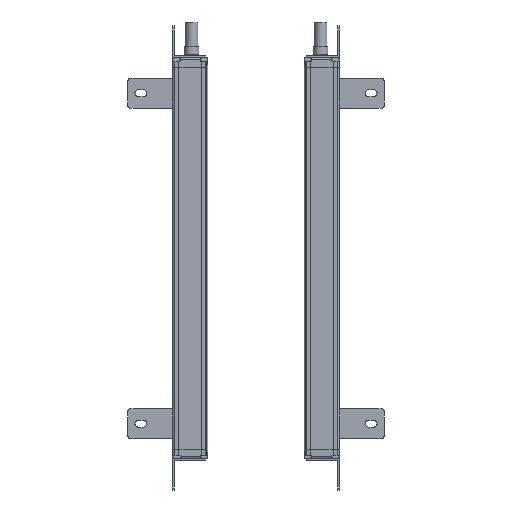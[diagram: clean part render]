
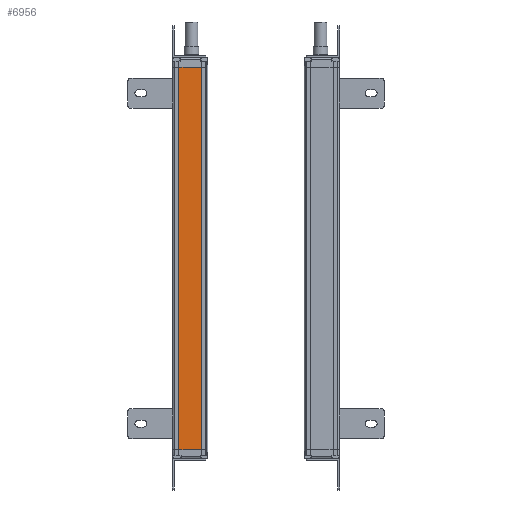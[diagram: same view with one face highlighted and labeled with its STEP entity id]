
A CAD part, left-side view. The second image highlights one B-rep face of the part: STEP entity #6956.
In plain terms, the highlighted planar face has unit normal (-1, 0, 0).
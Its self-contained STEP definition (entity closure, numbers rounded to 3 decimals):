
#953=FACE_OUTER_BOUND('',#9034,.T.);
#2188=LINE('',#33710,#4326);
#2290=LINE('',#34050,#4428);
#2291=LINE('',#34052,#4429);
#2292=LINE('',#34054,#4430);
#4326=VECTOR('',#26897,1.);
#4428=VECTOR('',#27185,1.);
#4429=VECTOR('',#27188,1.);
#4430=VECTOR('',#27189,1.);
#6178=PLANE('',#23723);
#6956=ADVANCED_FACE('',(#953),#6178,.T.);
#9034=EDGE_LOOP('',(#11681,#11682,#11683,#11684));
#11681=ORIENTED_EDGE('',*,*,#19828,.F.);
#11682=ORIENTED_EDGE('',*,*,#19829,.T.);
#11683=ORIENTED_EDGE('',*,*,#19830,.T.);
#11684=ORIENTED_EDGE('',*,*,#19658,.F.);
#17203=VERTEX_POINT('',#33709);
#17204=VERTEX_POINT('',#33711);
#17348=VERTEX_POINT('',#34049);
#17349=VERTEX_POINT('',#34053);
#19658=EDGE_CURVE('',#17203,#17204,#2188,.T.);
#19828=EDGE_CURVE('',#17348,#17203,#2290,.T.);
#19829=EDGE_CURVE('',#17348,#17349,#2291,.T.);
#19830=EDGE_CURVE('',#17349,#17204,#2292,.T.);
#23723=AXIS2_PLACEMENT_3D('',#34055,#27190,#27191);
#26897=DIRECTION('',(0.,-1.,0.));
#27185=DIRECTION('',(0.,0.,1.));
#27188=DIRECTION('',(0.,-1.,0.));
#27189=DIRECTION('',(0.,0.,1.));
#27190=DIRECTION('',(-1.,0.,0.));
#27191=DIRECTION('',(0.,-1.,0.));
#33709=CARTESIAN_POINT('',(233.846,104.141,31.645));
#33710=CARTESIAN_POINT('',(233.846,81.141,31.645));
#33711=CARTESIAN_POINT('',(233.846,81.141,31.645));
#34049=CARTESIAN_POINT('',(233.846,104.141,-353.355));
#34050=CARTESIAN_POINT('',(233.846,104.141,-155.355));
#34052=CARTESIAN_POINT('',(233.846,81.141,-353.355));
#34053=CARTESIAN_POINT('',(233.846,81.141,-353.355));
#34054=CARTESIAN_POINT('',(233.846,81.141,-155.355));
#34055=CARTESIAN_POINT('',(233.846,81.141,-50.355));
